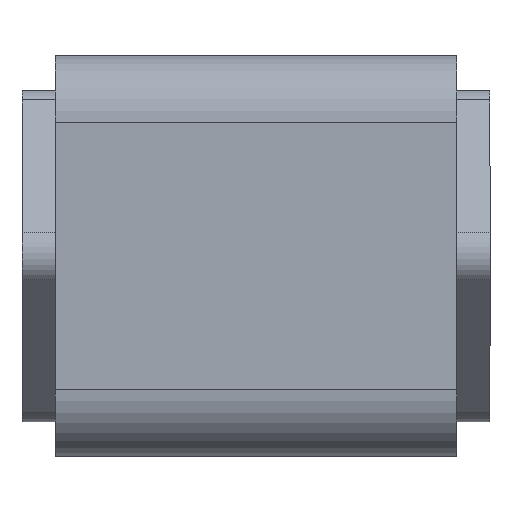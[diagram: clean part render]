
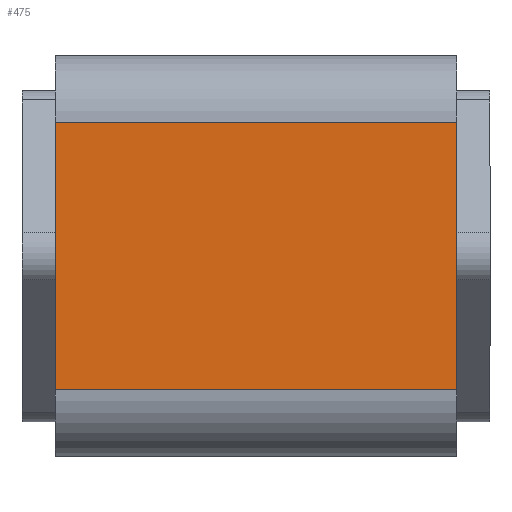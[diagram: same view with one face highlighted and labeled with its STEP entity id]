
A CAD part, left-side view. The second image highlights one B-rep face of the part: STEP entity #475.
In plain terms, the highlighted planar face has unit normal (-1, 0, 0).
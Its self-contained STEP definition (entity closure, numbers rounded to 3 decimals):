
#417=CARTESIAN_POINT('',(-30.,60.0,20.));
#418=VERTEX_POINT('',#417);
#426=CARTESIAN_POINT('',(-30.,0.0,20.));
#427=VERTEX_POINT('',#426);
#428=CARTESIAN_POINT('',(-30.,0.0,20.));
#429=DIRECTION('',(0.0,1.0,0.0));
#430=VECTOR('',#429,60.0);
#431=LINE('',#428,#430);
#432=EDGE_CURVE('',#427,#418,#431,.T.);
#445=CARTESIAN_POINT('',(-30.,0.0,20.));
#446=DIRECTION('',(-1.0,0.0,0.0));
#447=DIRECTION('',(0.0,0.0,1.0));
#448=AXIS2_PLACEMENT_3D('',#445,#446,#447);
#449=PLANE('',#448);
#450=CARTESIAN_POINT('',(-30.,60.0,-20.));
#451=VERTEX_POINT('',#450);
#452=CARTESIAN_POINT('',(-30.,60.0,20.));
#453=DIRECTION('',(0.0,0.0,-1.0));
#454=VECTOR('',#453,40.);
#455=LINE('',#452,#454);
#456=EDGE_CURVE('',#418,#451,#455,.T.);
#457=ORIENTED_EDGE('',*,*,#456,.T.);
#458=CARTESIAN_POINT('',(-30.,0.0,-20.));
#459=VERTEX_POINT('',#458);
#460=CARTESIAN_POINT('',(-30.,0.0,-20.));
#461=DIRECTION('',(0.0,1.0,0.0));
#462=VECTOR('',#461,60.0);
#463=LINE('',#460,#462);
#464=EDGE_CURVE('',#459,#451,#463,.T.);
#465=ORIENTED_EDGE('',*,*,#464,.F.);
#466=CARTESIAN_POINT('',(-30.,0.0,20.));
#467=DIRECTION('',(0.0,0.0,-1.0));
#468=VECTOR('',#467,40.);
#469=LINE('',#466,#468);
#470=EDGE_CURVE('',#427,#459,#469,.T.);
#471=ORIENTED_EDGE('',*,*,#470,.F.);
#472=ORIENTED_EDGE('',*,*,#432,.T.);
#473=EDGE_LOOP('',(#457,#465,#471,#472));
#474=FACE_OUTER_BOUND('',#473,.T.);
#475=ADVANCED_FACE('',(#474),#449,.T.);
